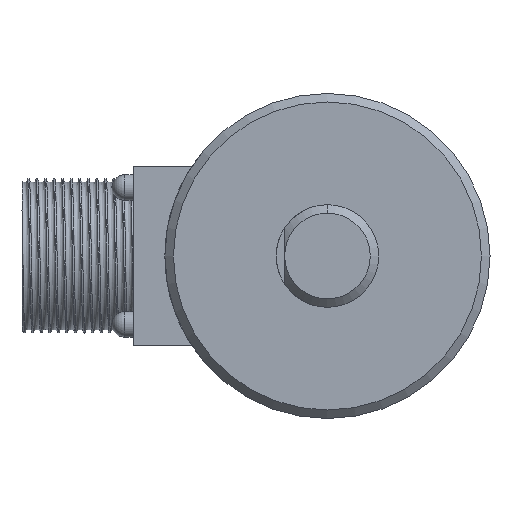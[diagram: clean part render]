
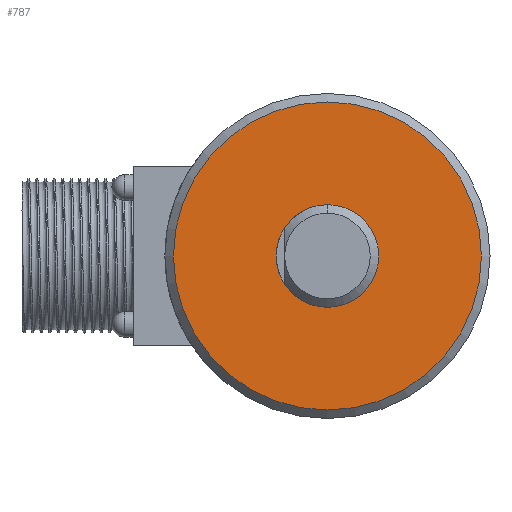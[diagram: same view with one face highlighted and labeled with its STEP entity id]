
A CAD part, left-side view. The second image highlights one B-rep face of the part: STEP entity #787.
In plain terms, the highlighted planar face has unit normal (-1, 0, 0).
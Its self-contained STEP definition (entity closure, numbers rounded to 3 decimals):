
#31=PLANE('',#883);
#46=FACE_BOUND('',#138,.T.);
#89=FACE_OUTER_BOUND('',#137,.T.);
#137=EDGE_LOOP('',(#594));
#138=EDGE_LOOP('',(#595));
#179=CIRCLE('',#873,18.);
#180=CIRCLE('',#875,6.);
#350=VERTEX_POINT('',#2153);
#351=VERTEX_POINT('',#2157);
#440=EDGE_CURVE('',#350,#350,#179,.T.);
#441=EDGE_CURVE('',#351,#351,#180,.T.);
#594=ORIENTED_EDGE('',*,*,#440,.T.);
#595=ORIENTED_EDGE('',*,*,#441,.T.);
#787=ADVANCED_FACE('',(#89,#46),#31,.F.);
#873=AXIS2_PLACEMENT_3D('',#2155,#1018,#1019);
#875=AXIS2_PLACEMENT_3D('',#2158,#1022,#1023);
#883=AXIS2_PLACEMENT_3D('',#2203,#1042,#1043);
#1018=DIRECTION('center_axis',(-1.,0.,0.));
#1019=DIRECTION('ref_axis',(0.,0.,-1.));
#1022=DIRECTION('center_axis',(1.,0.,0.));
#1023=DIRECTION('ref_axis',(0.,0.,-1.));
#1042=DIRECTION('center_axis',(1.,0.,0.));
#1043=DIRECTION('ref_axis',(0.,0.,-1.));
#2153=CARTESIAN_POINT('',(-18.,0.,18.));
#2155=CARTESIAN_POINT('Origin',(-18.,0.,0.));
#2157=CARTESIAN_POINT('',(-18.,0.,6.));
#2158=CARTESIAN_POINT('Origin',(-18.,0.,0.));
#2203=CARTESIAN_POINT('Origin',(-18.,0.,0.));
